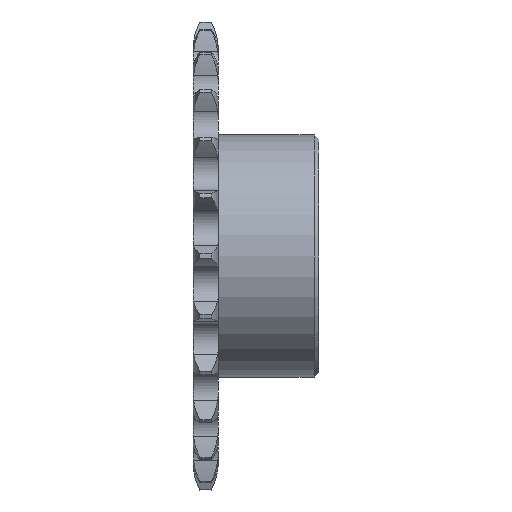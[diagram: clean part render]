
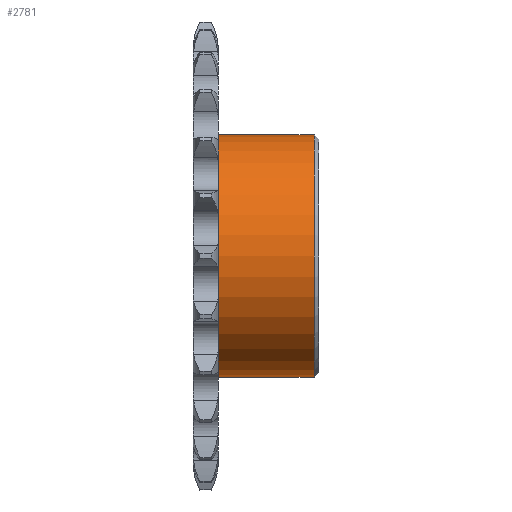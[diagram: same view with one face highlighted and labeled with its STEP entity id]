
A CAD part, front view. The second image highlights one B-rep face of the part: STEP entity #2781.
In plain terms, the highlighted cylindrical face has radius 12.5 mm (diameter 25 mm), a full revolution.
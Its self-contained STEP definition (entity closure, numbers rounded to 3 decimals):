
#21=FACE_BOUND('',#531,.T.);
#223=CIRCLE('',#3081,12.5);
#224=CIRCLE('',#3083,12.5);
#375=FACE_OUTER_BOUND('',#530,.T.);
#530=EDGE_LOOP('',(#2526));
#531=EDGE_LOOP('',(#2527));
#1214=VERTEX_POINT('',#5547);
#1215=VERTEX_POINT('',#5550);
#1653=EDGE_CURVE('',#1214,#1214,#223,.T.);
#1654=EDGE_CURVE('',#1215,#1215,#224,.T.);
#2526=ORIENTED_EDGE('',*,*,#1653,.T.);
#2527=ORIENTED_EDGE('',*,*,#1654,.F.);
#2632=CYLINDRICAL_SURFACE('',#3082,12.5);
#2781=ADVANCED_FACE('',(#375,#21),#2632,.T.);
#3081=AXIS2_PLACEMENT_3D('',#5548,#3775,#3776);
#3082=AXIS2_PLACEMENT_3D('',#5549,#3777,#3778);
#3083=AXIS2_PLACEMENT_3D('',#5551,#3779,#3780);
#3775=DIRECTION('center_axis',(1.,0.,0.));
#3776=DIRECTION('ref_axis',(0.,0.,-1.));
#3777=DIRECTION('center_axis',(1.,0.,0.));
#3778=DIRECTION('ref_axis',(0.,1.,0.));
#3779=DIRECTION('center_axis',(1.,0.,0.));
#3780=DIRECTION('ref_axis',(0.,0.,-1.));
#5547=CARTESIAN_POINT('',(-2.198,-2.108,0.));
#5548=CARTESIAN_POINT('Origin',(-2.198,-14.608,0.));
#5549=CARTESIAN_POINT('Origin',(2.752,-14.608,0.));
#5550=CARTESIAN_POINT('',(7.702,-2.108,0.));
#5551=CARTESIAN_POINT('Origin',(7.702,-14.608,0.));
